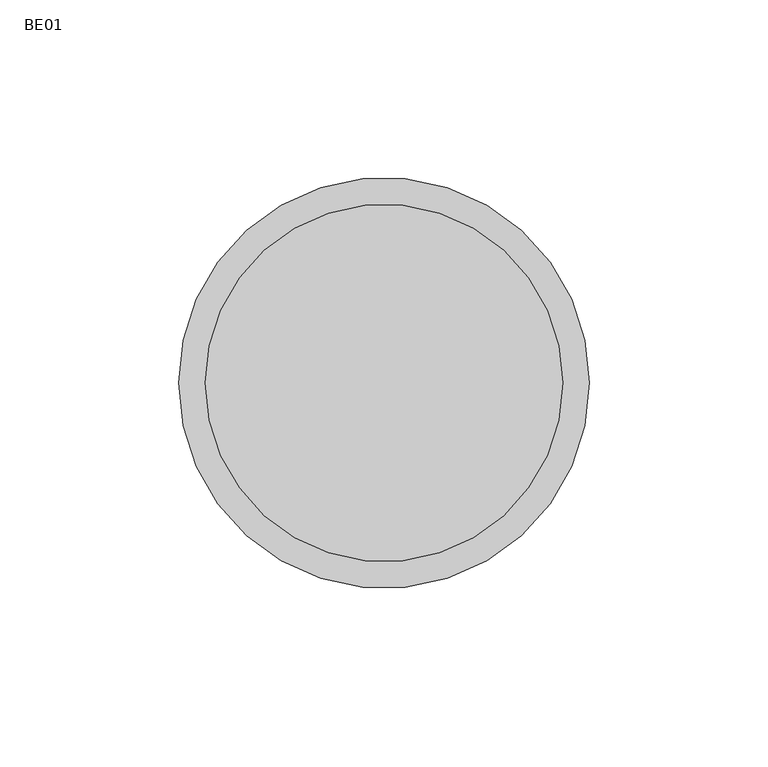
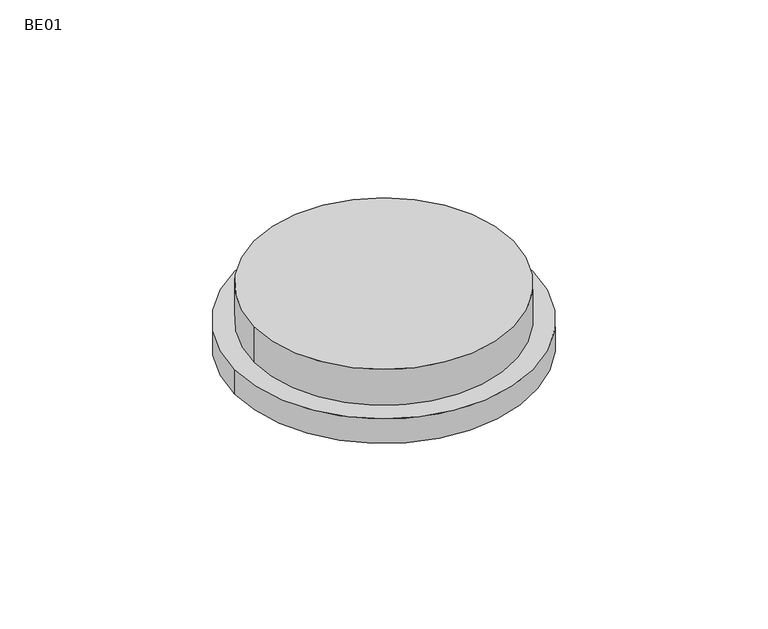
"""IFC4 building model written with IfcOpenShell, lengths in millimetres: air terminal geometry, ZYR_03.06.04.01 Boca Extracció Circular : BE01."""

from ifc_helpers import new_model, si_unit, point, frame, origin, origin_with_axes, origin_2d, place, context, project, spatial, circle_curve, trimmed, segment, composite_curve, outline, extrude, source, transform, mapped, element, save


def be01_69346ebb(model_context):
    return source(origin(), model_context, "Body", "SweptSolid", [
        extrude(outline(composite_curve([segment(trimmed(circle_curve(origin_2d(), 57.5), [point((-57.5, 0.0))], [point((57.5, 0.0))], False, "CARTESIAN"), True, "CONTINUOUS"), segment(trimmed(circle_curve(origin_2d(), 57.5), [point((57.5, 0.0))], [point((-57.5, 0.0))], False, "CARTESIAN"), True, "CONTINUOUS")], self_intersect=False)), frame((0.0, 0.0, -10.0), z_axis=(0.0, 0.0, 1.0), x_axis=(1.0, 0.0, 0.0)), (0.0, 0.0, 1.0), 10.0),
        extrude(outline(composite_curve([segment(trimmed(circle_curve(origin_2d(), 50.0), [point((-50.0, 0.0))], [point((50.0, 0.0))], False, "CARTESIAN"), True, "CONTINUOUS"), segment(trimmed(circle_curve(origin_2d(), 50.0), [point((50.0, 0.0))], [point((-50.0, 0.0))], False, "CARTESIAN"), True, "CONTINUOUS")], self_intersect=False)), origin_with_axes(), (0.0, 0.0, 1.0), 15.0),
    ])


if __name__ == "__main__":
    model = new_model("IFC4")
    model_context = context("Model", 3, world=origin())
    ifc_project = project(units=[si_unit("LENGTHUNIT", "METRE", prefix="MILLI")], contexts=[model_context])
    site = spatial("IfcSite", under=ifc_project)
    building = spatial("IfcBuilding", under=site)
    placement = place(None, origin())
    be01_shape = be01_69346ebb(model_context)
    element("IfcAirTerminal", 1, ObjectType="ZYR_03.06.04.01 Boca Extracció Circular : BE01", at=placement, inside=building, context=model_context, shape_type="MappedRepresentation", body=[
        mapped(be01_shape, transform((0.0, 0.0, 0.0), x_axis=(1.0, 0.0, 0.0), y_axis=(0.0, 1.0, 0.0), z_axis=(0.0, 0.0, 1.0))),
    ])
    save(model, "model.ifc")
